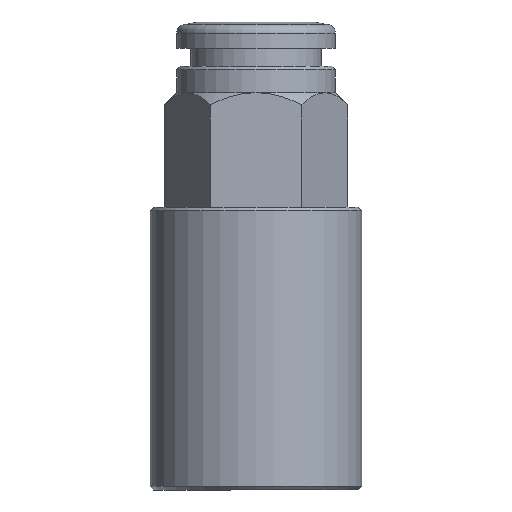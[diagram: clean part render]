
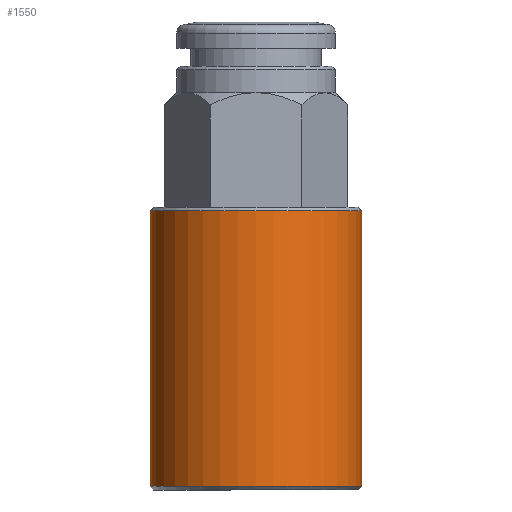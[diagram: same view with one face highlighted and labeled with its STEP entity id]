
A CAD part, front view. The second image highlights one B-rep face of the part: STEP entity #1550.
In plain terms, the highlighted cylindrical face has radius 6 mm (diameter 12 mm), a full revolution.
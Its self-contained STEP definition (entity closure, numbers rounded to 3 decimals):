
#1550=ADVANCED_FACE('', (#1560,#1570), #1580, .T.);
#4350=AXIS2_PLACEMENT_3D('Ax2Pl3d', #4360, #4370, #4380);
#5110=AXIS2_PLACEMENT_3D('Ax2Pl3d', #5120, #5130, #5140);
#5150=AXIS2_PLACEMENT_3D('Ax2Pl3d', #5160, #5170, #5180);
#4360=CARTESIAN_POINT('HicPkt', (1.989,13.397,
13.551));
#7010=CARTESIAN_POINT('', (1.989,7.397,13.551));
#5120=CARTESIAN_POINT('HicPkt', (1.989,13.397,
-2.049));
#7210=CARTESIAN_POINT('', (1.989,7.397,-2.049))
;
#5160=CARTESIAN_POINT('HicPkt', (1.989,13.397,
13.551));
#7560=CIRCLE('Circle', #4350, 6.);
#7640=CIRCLE('Circle', #5110, 6.);
#1580=CYLINDRICAL_SURFACE('Zyl', #5150, 6.);
#4370=DIRECTION('Axis', (0.,0.,1.));
#4380=DIRECTION('RefDirection', (1.,0.,-0.));
#5130=DIRECTION('Axis', (0.,0.,-1.));
#5140=DIRECTION('RefDirection', (-1.,-0.,0.));
#5170=DIRECTION('Axis', (0.,0.,-1.));
#5180=DIRECTION('RefDirection', (-1.,-0.,0.));
#10760=EDGE_CURVE('', #10770, #10770, #7560, .T.);
#11220=EDGE_CURVE('', #11230, #11230, #7640, .T.);
#13060=EDGE_LOOP('Edge_loop', (#13070));
#13080=EDGE_LOOP('Edge_loop', (#13090));
#1570=FACE_BOUND('', #13080, .T.);
#1560=FACE_OUTER_BOUND('Face_outer_bound', #13060, .T.);
#13070=ORIENTED_EDGE('', *, *, #10760, .F.);
#13090=ORIENTED_EDGE('', *, *, #11220, .F.);
#10770=VERTEX_POINT('', #7010);
#11230=VERTEX_POINT('', #7210);
